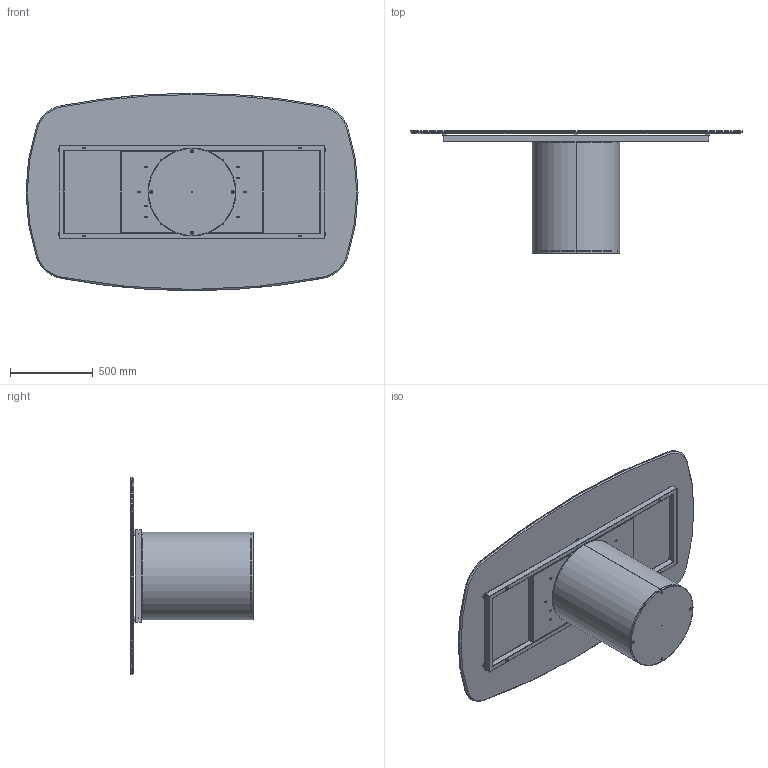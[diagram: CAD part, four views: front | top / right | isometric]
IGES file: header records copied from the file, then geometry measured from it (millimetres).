
Start section: SolidWorks IGES file using analytic representation for surfaces
Global section: file name: Y:\eforma\TECNICO\SOLIDWORKS\E-FORMA\1-TAVOLI\CILINDRO\02 parts\CI40C.IGS; native system: SolidWorks 2022; preprocessor: SolidWorks 2022; author: eforma.tech; date: 240808.092430; units: millimetre
Bounding box: 2000 x 736 x 1190 mm (x, y, z)
Volume: 42907116.9 mm3; surface area: 13774177.9 mm2
Topology: 25 solids, 25 shells, 589 faces, 1379 edges, 816 vertices
Faces by surface type: revolution 335, plane 254
